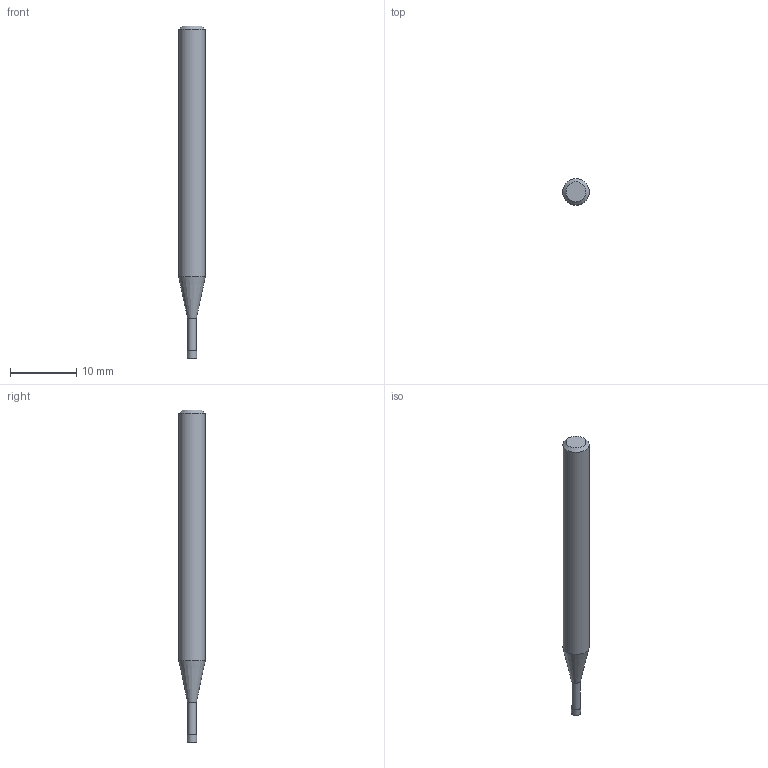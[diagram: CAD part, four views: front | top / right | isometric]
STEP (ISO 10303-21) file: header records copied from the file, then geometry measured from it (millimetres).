
FILE_DESCRIPTION((''),'2;1');
FILE_NAME('C:\Users\nsx150\AppData\Local\Temp\Mastercam 2021\RJ5U8K7RMU\TEMP.step','2021-04-21T16:41:25',(''),(''),'STEP Write','Mastercam 2021 ... CNC Software, Inc.','');
FILE_SCHEMA(('AUTOMOTIVE_DESIGN'));
Length unit declared in the file: millimetre
Products named in the file (1): None
Bounding box: 4 x 4 x 50 mm (x, y, z)
Volume: 519.8 mm3; surface area: 566.8 mm2
Topology: 2 solids, 2 shells, 9 faces, 12 edges, 7 vertices
Faces by surface type: plane 4, cylinder 3, cone 2
Full cylindrical faces by diameter (mm): 1.35 x1, 1.4 x1, 4 x1
Entity records: 211 total; most frequent: DIRECTION 36, CARTESIAN_POINT 25, AXIS2_PLACEMENT_3D 18, ORIENTED_EDGE 14, EDGE_LOOP 14, STYLED_ITEM 12, ADVANCED_FACE 9, FACE_BOUND 8
